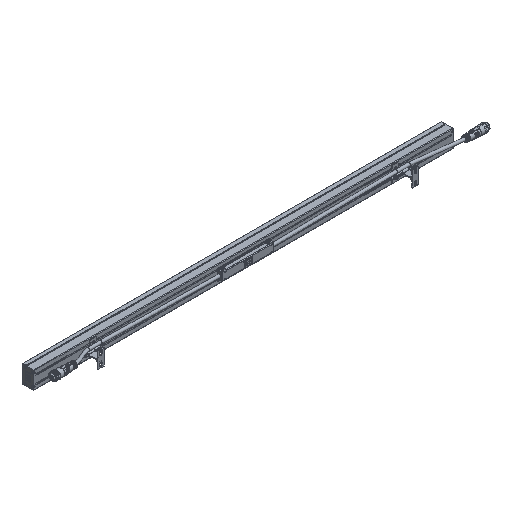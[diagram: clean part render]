
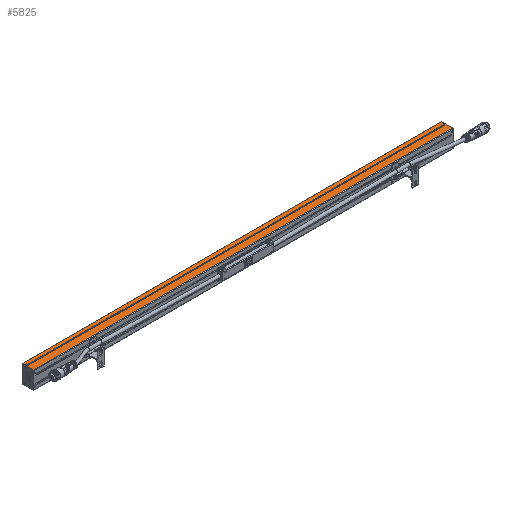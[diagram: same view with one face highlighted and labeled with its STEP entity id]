
A CAD part, isometric view. The second image highlights one B-rep face of the part: STEP entity #5825.
In plain terms, the highlighted planar face has unit normal (0, 0, 1).
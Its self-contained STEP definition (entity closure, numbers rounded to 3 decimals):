
#41 = EDGE_LOOP ( 'NONE', ( #57170, #70221, #63618, #7747 ) ) ;
#4698 = CARTESIAN_POINT ( 'NONE',  ( -495., 54.2, 21. ) ) ;
#5825 = ADVANCED_FACE ( 'NONE', ( #53962, #71444 ), #12758, .T. ) ;
#5891 = VECTOR ( 'NONE', #70279, 1000. ) ;
#6614 = CARTESIAN_POINT ( 'NONE',  ( 495., 51.8, 21. ) ) ;
#7722 = VECTOR ( 'NONE', #65707, 1000. ) ;
#7747 = ORIENTED_EDGE ( 'NONE', *, *, #49657, .T. ) ;
#8272 = VECTOR ( 'NONE', #30556, 1000. ) ;
#8459 = EDGE_CURVE ( 'NONE', #25731, #17965, #60146, .T. ) ;
#8505 = EDGE_CURVE ( 'NONE', #15786, #44119, #70795, .T. ) ;
#10607 = CARTESIAN_POINT ( 'NONE',  ( 495., 54.2, 21. ) ) ;
#11725 = EDGE_CURVE ( 'NONE', #60968, #22724, #13078, .T. ) ;
#11939 = EDGE_CURVE ( 'NONE', #25731, #38109, #40777, .T. ) ;
#12380 = LINE ( 'NONE', #65378, #32114 ) ;
#12508 = VECTOR ( 'NONE', #59394, 1000. ) ;
#12758 = PLANE ( 'NONE',  #40867 ) ;
#13078 = LINE ( 'NONE', #70281, #7722 ) ;
#15238 = CARTESIAN_POINT ( 'NONE',  ( 499.8, 36., 21. ) ) ;
#15786 = VERTEX_POINT ( 'NONE', #55204 ) ;
#17219 = EDGE_CURVE ( 'NONE', #60968, #15786, #47067, .T. ) ;
#17424 = VECTOR ( 'NONE', #48697, 1000. ) ;
#17965 = VERTEX_POINT ( 'NONE', #4698 ) ;
#18671 = VERTEX_POINT ( 'NONE', #51384 ) ;
#19334 = CARTESIAN_POINT ( 'NONE',  ( -499.8, 62.5, 21. ) ) ;
#20791 = CARTESIAN_POINT ( 'NONE',  ( 499.8, 62.5, 21. ) ) ;
#22724 = VERTEX_POINT ( 'NONE', #15238 ) ;
#23474 = VECTOR ( 'NONE', #64772, 1000. ) ;
#24941 = DIRECTION ( 'NONE',  ( 0., 0., 1. ) ) ;
#25731 = VERTEX_POINT ( 'NONE', #10607 ) ;
#25938 = EDGE_LOOP ( 'NONE', ( #38410, #44144, #64906, #68416 ) ) ;
#28942 = DIRECTION ( 'NONE',  ( 1., 0., 0. ) ) ;
#29307 = CARTESIAN_POINT ( 'NONE',  ( 495., 62.5, 21. ) ) ;
#29701 = LINE ( 'NONE', #46905, #60457 ) ;
#29908 = CARTESIAN_POINT ( 'NONE',  ( -500., 35., 21. ) ) ;
#30395 = CARTESIAN_POINT ( 'NONE',  ( 495., 54.2, 21. ) ) ;
#30556 = DIRECTION ( 'NONE',  ( -1., 0., 0. ) ) ;
#32114 = VECTOR ( 'NONE', #65756, 1000. ) ;
#34837 = CARTESIAN_POINT ( 'NONE',  ( -495., 62.5, 21. ) ) ;
#38109 = VERTEX_POINT ( 'NONE', #6614 ) ;
#38138 = CARTESIAN_POINT ( 'NONE',  ( -499.8, 36., 21. ) ) ;
#38410 = ORIENTED_EDGE ( 'NONE', *, *, #66832, .F. ) ;
#40777 = LINE ( 'NONE', #29307, #23474 ) ;
#40867 = AXIS2_PLACEMENT_3D ( 'NONE', #29908, #24941, #54345 ) ;
#42004 = LINE ( 'NONE', #60310, #8272 ) ;
#44119 = VERTEX_POINT ( 'NONE', #38138 ) ;
#44144 = ORIENTED_EDGE ( 'NONE', *, *, #8459, .F. ) ;
#46905 = CARTESIAN_POINT ( 'NONE',  ( -499.8, 36., 21. ) ) ;
#47067 = LINE ( 'NONE', #34837, #5891 ) ;
#48697 = DIRECTION ( 'NONE',  ( 0., -1., 0. ) ) ;
#49657 = EDGE_CURVE ( 'NONE', #44119, #22724, #29701, .T. ) ;
#50571 = EDGE_CURVE ( 'NONE', #38109, #18671, #42004, .T. ) ;
#51384 = CARTESIAN_POINT ( 'NONE',  ( -495., 51.8, 21. ) ) ;
#53962 = FACE_OUTER_BOUND ( 'NONE', #41, .T. ) ;
#54345 = DIRECTION ( 'NONE',  ( 0., 1., 0. ) ) ;
#55204 = CARTESIAN_POINT ( 'NONE',  ( -499.8, 62.5, 21. ) ) ;
#57170 = ORIENTED_EDGE ( 'NONE', *, *, #11725, .F. ) ;
#59394 = DIRECTION ( 'NONE',  ( -1., 0., 0. ) ) ;
#60146 = LINE ( 'NONE', #30395, #12508 ) ;
#60310 = CARTESIAN_POINT ( 'NONE',  ( 495., 51.8, 21. ) ) ;
#60457 = VECTOR ( 'NONE', #28942, 1000. ) ;
#60968 = VERTEX_POINT ( 'NONE', #20791 ) ;
#63618 = ORIENTED_EDGE ( 'NONE', *, *, #8505, .T. ) ;
#64772 = DIRECTION ( 'NONE',  ( 0., -1., 0. ) ) ;
#64906 = ORIENTED_EDGE ( 'NONE', *, *, #11939, .T. ) ;
#65378 = CARTESIAN_POINT ( 'NONE',  ( -495., 62.5, 21. ) ) ;
#65707 = DIRECTION ( 'NONE',  ( 0., -1., 0. ) ) ;
#65756 = DIRECTION ( 'NONE',  ( 0., -1., 0. ) ) ;
#66832 = EDGE_CURVE ( 'NONE', #17965, #18671, #12380, .T. ) ;
#68416 = ORIENTED_EDGE ( 'NONE', *, *, #50571, .T. ) ;
#70221 = ORIENTED_EDGE ( 'NONE', *, *, #17219, .T. ) ;
#70279 = DIRECTION ( 'NONE',  ( -1., 0., 0. ) ) ;
#70281 = CARTESIAN_POINT ( 'NONE',  ( 499.8, 62.5, 21. ) ) ;
#70795 = LINE ( 'NONE', #19334, #17424 ) ;
#71444 = FACE_BOUND ( 'NONE', #25938, .T. ) ;
